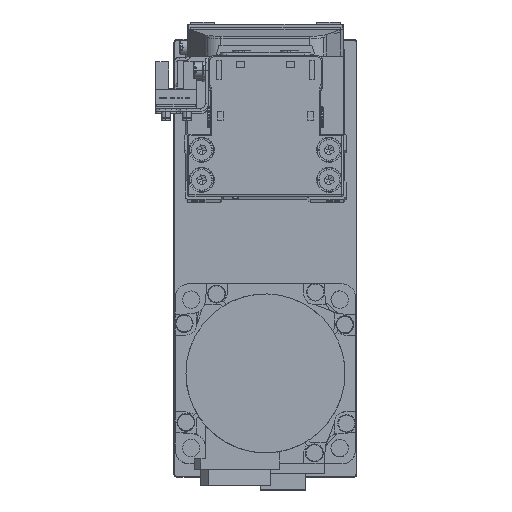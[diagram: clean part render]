
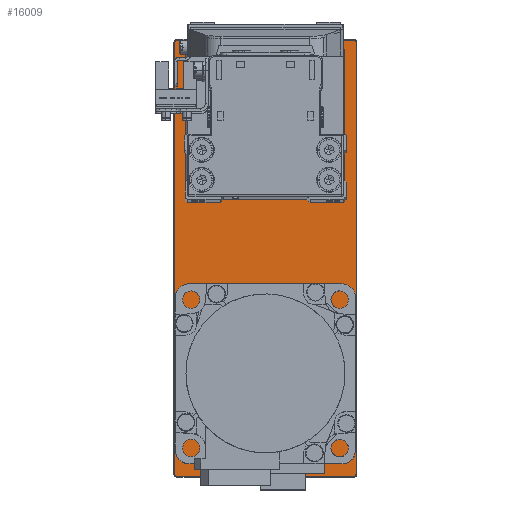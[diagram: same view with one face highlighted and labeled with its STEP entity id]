
A CAD part, top view. The second image highlights one B-rep face of the part: STEP entity #16009.
In plain terms, the highlighted planar face has unit normal (0, 0, 1) as drawn and (0, -1, 0) by its records, which use the part's own axes.
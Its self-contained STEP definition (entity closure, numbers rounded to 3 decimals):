
#38 = VERTEX_POINT ( 'NONE', #5873 ) ;
#214 = EDGE_CURVE ( 'NONE', #16824, #22483, #5692, .T. ) ;
#772 = CARTESIAN_POINT ( 'NONE',  ( -72., -5., -29.5 ) ) ;
#861 = CARTESIAN_POINT ( 'NONE',  ( 72., -5., -30.2 ) ) ;
#1021 = CARTESIAN_POINT ( 'NONE',  ( 72., -5., -30.2 ) ) ;
#1116 = CARTESIAN_POINT ( 'NONE',  ( -72.7, -5., -29.5 ) ) ;
#1873 = CARTESIAN_POINT ( 'NONE',  ( 46.5, -5., 10.3 ) ) ;
#2441 = EDGE_CURVE ( 'NONE', #38, #14059, #29875, .T. ) ;
#2760 = CIRCLE ( 'NONE', #26455, 0.7 ) ;
#2773 = CIRCLE ( 'NONE', #26471, 10.3 ) ;
#3183 = EDGE_LOOP ( 'NONE', ( #38527, #16464 ) ) ;
#3266 = CARTESIAN_POINT ( 'NONE',  ( -72.7, -5., 29.5 ) ) ;
#3675 = ORIENTED_EDGE ( 'NONE', *, *, #22224, .T. ) ;
#3839 = CARTESIAN_POINT ( 'NONE',  ( 46.5, -5., 0. ) ) ;
#3927 = CIRCLE ( 'NONE', #27610, 19.05 ) ;
#4792 = CARTESIAN_POINT ( 'NONE',  ( -72., -5., 30.2 ) ) ;
#5692 = CIRCLE ( 'NONE', #29400, 0.7 ) ;
#5873 = CARTESIAN_POINT ( 'NONE',  ( -72., -5., -30.2 ) ) ;
#5972 = ORIENTED_EDGE ( 'NONE', *, *, #33158, .T. ) ;
#6021 = DIRECTION ( 'NONE',  ( 0., 0., -1. ) ) ;
#6284 = DIRECTION ( 'NONE',  ( 0., 0., -1. ) ) ;
#6644 = CARTESIAN_POINT ( 'NONE',  ( 72., -5., 30.2 ) ) ;
#7002 = EDGE_CURVE ( 'NONE', #18417, #8494, #2773, .T. ) ;
#7143 = DIRECTION ( 'NONE',  ( 0., 0., 1. ) ) ;
#7434 = DIRECTION ( 'NONE',  ( 0., 0., 1. ) ) ;
#7862 = DIRECTION ( 'NONE',  ( 0., 1., 0. ) ) ;
#8383 = DIRECTION ( 'NONE',  ( 0., 1., 0. ) ) ;
#8494 = VERTEX_POINT ( 'NONE', #1873 ) ;
#8944 = CIRCLE ( 'NONE', #32637, 0.7 ) ;
#9186 = PLANE ( 'NONE',  #20592 ) ;
#10499 = CARTESIAN_POINT ( 'NONE',  ( -72., -5., 29.5 ) ) ;
#11214 = VERTEX_POINT ( 'NONE', #29245 ) ;
#11631 = DIRECTION ( 'NONE',  ( 0., 0., -1. ) ) ;
#12067 = AXIS2_PLACEMENT_3D ( 'NONE', #23255, #36177, #7143 ) ;
#12364 = FACE_BOUND ( 'NONE', #3183, .T. ) ;
#12661 = DIRECTION ( 'NONE',  ( 0., -1., 0. ) ) ;
#12756 = VECTOR ( 'NONE', #17725, 1000. ) ;
#13302 = VERTEX_POINT ( 'NONE', #1116 ) ;
#13665 = DIRECTION ( 'NONE',  ( 0., -1., 0. ) ) ;
#13751 = DIRECTION ( 'NONE',  ( 1., 0., 0. ) ) ;
#14059 = VERTEX_POINT ( 'NONE', #1021 ) ;
#15320 = AXIS2_PLACEMENT_3D ( 'NONE', #27757, #40676, #11631 ) ;
#15454 = ORIENTED_EDGE ( 'NONE', *, *, #23145, .T. ) ;
#16009 = ADVANCED_FACE ( 'NONE', ( #12364, #25294, #38229 ), #9186, .T. ) ;
#16464 = ORIENTED_EDGE ( 'NONE', *, *, #41481, .T. ) ;
#16766 = DIRECTION ( 'NONE',  ( 0., 1., 0. ) ) ;
#16824 = VERTEX_POINT ( 'NONE', #26239 ) ;
#17720 = CIRCLE ( 'NONE', #41415, 10.3 ) ;
#17725 = DIRECTION ( 'NONE',  ( -1., 0., 0. ) ) ;
#18417 = VERTEX_POINT ( 'NONE', #27908 ) ;
#18737 = ORIENTED_EDGE ( 'NONE', *, *, #2441, .T. ) ;
#19442 = CARTESIAN_POINT ( 'NONE',  ( -38.5, -5., -19.05 ) ) ;
#20330 = ORIENTED_EDGE ( 'NONE', *, *, #36676, .T. ) ;
#20592 = AXIS2_PLACEMENT_3D ( 'NONE', #22104, #35049, #6021 ) ;
#20776 = DIRECTION ( 'NONE',  ( 0., 0., 1. ) ) ;
#21299 = DIRECTION ( 'NONE',  ( 0., 0., -1. ) ) ;
#21400 = VERTEX_POINT ( 'NONE', #6644 ) ;
#22104 = CARTESIAN_POINT ( 'NONE',  ( 0., -5., 0. ) ) ;
#22224 = EDGE_CURVE ( 'NONE', #22483, #13302, #22375, .T. ) ;
#22375 = LINE ( 'NONE', #35326, #36789 ) ;
#22483 = VERTEX_POINT ( 'NONE', #3266 ) ;
#22658 = EDGE_LOOP ( 'NONE', ( #20330, #31805 ) ) ;
#23145 = EDGE_CURVE ( 'NONE', #14059, #24478, #33579, .T. ) ;
#23255 = CARTESIAN_POINT ( 'NONE',  ( -38.5, -5., 0. ) ) ;
#23436 = DIRECTION ( 'NONE',  ( 0., -1., 0. ) ) ;
#23540 = LINE ( 'NONE', #36476, #30262 ) ;
#24030 = EDGE_CURVE ( 'NONE', #24478, #36931, #23540, .T. ) ;
#24478 = VERTEX_POINT ( 'NONE', #33650 ) ;
#25237 = EDGE_LOOP ( 'NONE', ( #5972, #41356, #31416, #3675, #30282, #18737, #15454, #33044 ) ) ;
#25294 = FACE_OUTER_BOUND ( 'NONE', #25237, .T. ) ;
#25594 = DIRECTION ( 'NONE',  ( 0., 0., -1. ) ) ;
#26239 = CARTESIAN_POINT ( 'NONE',  ( -72., -5., 30.2 ) ) ;
#26455 = AXIS2_PLACEMENT_3D ( 'NONE', #41703, #12661, #25594 ) ;
#26471 = AXIS2_PLACEMENT_3D ( 'NONE', #3839, #16766, #29700 ) ;
#26608 = DIRECTION ( 'NONE',  ( 0., 0., -1. ) ) ;
#27610 = AXIS2_PLACEMENT_3D ( 'NONE', #36898, #7862, #20776 ) ;
#27757 = CARTESIAN_POINT ( 'NONE',  ( 72., -5., -29.5 ) ) ;
#27908 = CARTESIAN_POINT ( 'NONE',  ( 46.5, -5., -10.3 ) ) ;
#29245 = CARTESIAN_POINT ( 'NONE',  ( -38.5, -5., 19.05 ) ) ;
#29400 = AXIS2_PLACEMENT_3D ( 'NONE', #10499, #23436, #36367 ) ;
#29700 = DIRECTION ( 'NONE',  ( 0., 0., -1. ) ) ;
#29875 = LINE ( 'NONE', #861, #34197 ) ;
#30262 = VECTOR ( 'NONE', #7434, 1000. ) ;
#30282 = ORIENTED_EDGE ( 'NONE', *, *, #34855, .T. ) ;
#30363 = CIRCLE ( 'NONE', #12067, 19.05 ) ;
#31416 = ORIENTED_EDGE ( 'NONE', *, *, #214, .T. ) ;
#31805 = ORIENTED_EDGE ( 'NONE', *, *, #37422, .T. ) ;
#32637 = AXIS2_PLACEMENT_3D ( 'NONE', #772, #13665, #26608 ) ;
#33044 = ORIENTED_EDGE ( 'NONE', *, *, #24030, .T. ) ;
#33158 = EDGE_CURVE ( 'NONE', #36931, #21400, #2760, .T. ) ;
#33221 = VERTEX_POINT ( 'NONE', #19442 ) ;
#33253 = CARTESIAN_POINT ( 'NONE',  ( 72.7, -5., 29.5 ) ) ;
#33579 = CIRCLE ( 'NONE', #15320, 0.7 ) ;
#33650 = CARTESIAN_POINT ( 'NONE',  ( 72.7, -5., -29.5 ) ) ;
#33811 = LINE ( 'NONE', #4792, #12756 ) ;
#34197 = VECTOR ( 'NONE', #13751, 1000. ) ;
#34855 = EDGE_CURVE ( 'NONE', #13302, #38, #8944, .T. ) ;
#35049 = DIRECTION ( 'NONE',  ( 0., -1., 0. ) ) ;
#35326 = CARTESIAN_POINT ( 'NONE',  ( -72.7, -5., -29.5 ) ) ;
#35752 = EDGE_CURVE ( 'NONE', #21400, #16824, #33811, .T. ) ;
#36177 = DIRECTION ( 'NONE',  ( 0., 1., 0. ) ) ;
#36367 = DIRECTION ( 'NONE',  ( 0., 0., -1. ) ) ;
#36476 = CARTESIAN_POINT ( 'NONE',  ( 72.7, -5., 29.5 ) ) ;
#36676 = EDGE_CURVE ( 'NONE', #11214, #33221, #3927, .T. ) ;
#36789 = VECTOR ( 'NONE', #6284, 1000. ) ;
#36898 = CARTESIAN_POINT ( 'NONE',  ( -38.5, -5., 0. ) ) ;
#36931 = VERTEX_POINT ( 'NONE', #33253 ) ;
#37416 = CARTESIAN_POINT ( 'NONE',  ( 46.5, -5., 0. ) ) ;
#37422 = EDGE_CURVE ( 'NONE', #33221, #11214, #30363, .T. ) ;
#38229 = FACE_BOUND ( 'NONE', #22658, .T. ) ;
#38527 = ORIENTED_EDGE ( 'NONE', *, *, #7002, .T. ) ;
#40676 = DIRECTION ( 'NONE',  ( 0., -1., 0. ) ) ;
#41356 = ORIENTED_EDGE ( 'NONE', *, *, #35752, .T. ) ;
#41415 = AXIS2_PLACEMENT_3D ( 'NONE', #37416, #8383, #21299 ) ;
#41481 = EDGE_CURVE ( 'NONE', #8494, #18417, #17720, .T. ) ;
#41703 = CARTESIAN_POINT ( 'NONE',  ( 72., -5., 29.5 ) ) ;
